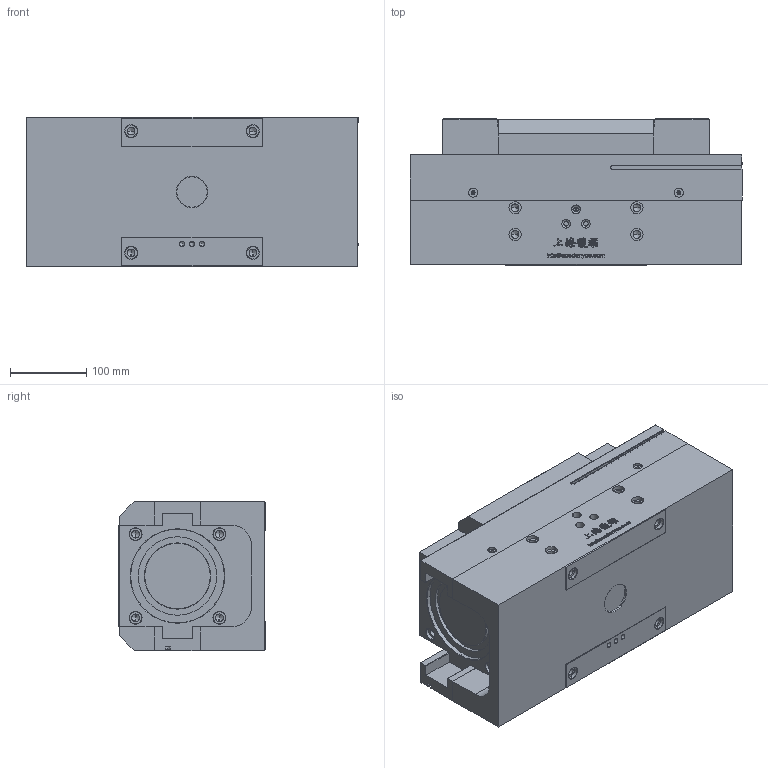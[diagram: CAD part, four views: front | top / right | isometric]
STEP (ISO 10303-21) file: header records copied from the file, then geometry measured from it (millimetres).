
FILE_DESCRIPTION (( 'STEP AP203' ), '1' );
FILE_NAME ('PSG-100-原始檔-組合-W106.04.20.STEP', '2017-04-20T07:17:41', ( 'DanyaoCAD' ), ( '' ), 'SwSTEP 2.0', 'SolidWorks 2016', '' );
FILE_SCHEMA (( 'CONFIG_CONTROL_DESIGN' ));
Length unit declared in the file: millimetre
Products named in the file (5): Griffa; Corpo; Guida; Coperchio; PSG-100-原始檔-組合-W106.04.20
Assembly tree (6 placements, depth 2):
  PSG-100-原始檔-組合-W106.04.20
    Griffa  x2
    Corpo
    Guida  x2
    Coperchio
Bounding box: 436 x 191.9 x 196 mm (x, y, z)
Volume: 13510870.3 mm3; surface area: 1009006.1 mm2
Topology: 6 solids, 6 shells, 1280 faces, 3486 edges, 2256 vertices
Faces by surface type: bspline 640, plane 307, cylinder 201, cone 132
Entity records: 52827 total; most frequent: CARTESIAN_POINT 27923, ORIENTED_EDGE 6126, DIRECTION 3088, EDGE_CURVE 3063, VERTEX_POINT 2023, VECTOR 1400, LINE 1400, B_SPLINE_CURVE_WITH_KNOTS 1315
